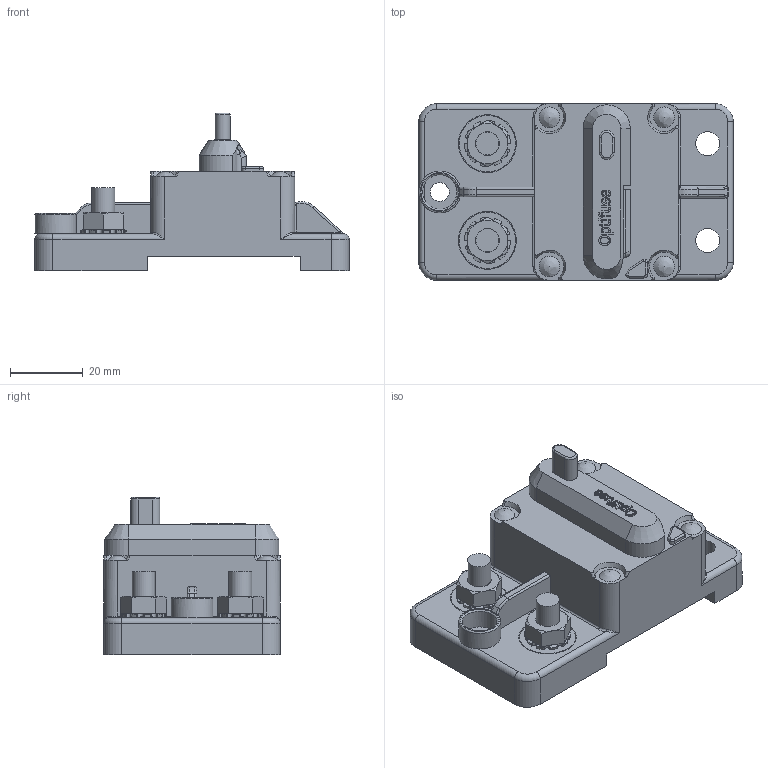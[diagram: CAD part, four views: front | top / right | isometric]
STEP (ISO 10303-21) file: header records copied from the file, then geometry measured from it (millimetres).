
FILE_DESCRIPTION(/* description */ (''),/* implementation_level */ '2;1');
FILE_NAME(/* name */ 'C:\Users\Hani\Desktop\work\453\453 Circuit Breaker.stp',/* time_stamp */ '2022-02-06T12:22:51-08:00',/* author */ ('Hani'),/* organization */ (''),/* preprocessor_version */ 'ST-DEVELOPER v17',/* originating_system */ 'Autodesk Inventor 2019',/* authorisation */ '');
FILE_SCHEMA (('AUTOMOTIVE_DESIGN { 1 0 10303 214 3 1 1 }'));
Products named in the file (7): 253 Circuit Breaker; Circuit_Breaker series 153; washer; bolt; .250-28 HEX NUT WITH TOOTH WASHER; washer_MIR; .250-28 HEX NUT WITH TOOTH WASHER_MIR
Assembly tree (9 placements, depth 2):
  253 Circuit Breaker
    Circuit_Breaker series 153
    washer
    bolt  x4
    .250-28 HEX NUT WITH TOOTH WASHER
    washer_MIR
    .250-28 HEX NUT WITH TOOTH WASHER_MIR
Bounding box: 86.35 x 48.5 x 43.3 mm (x, y, z)
Volume: 71228.2 mm3; surface area: 21002.1 mm2
Topology: 11 solids, 11 shells, 599 faces, 1567 edges, 1006 vertices
Faces by surface type: plane 203, cylinder 168, bspline 141, cone 62, torus 22, sphere 3
Full cylindrical faces by diameter (mm): 3.429 x4, 3.5 x4, 5.2 x1, 5.368 x8, 6.35 x18, 6.6 x2, 7 x2, 8.757 x2, 9.5 x1, 15.494 x2, 15.875 x2
Entity records: 24363 total; most frequent: CARTESIAN_POINT 10651, ORIENTED_EDGE 3078, DIRECTION 2390, EDGE_CURVE 1539, VERTEX_POINT 991, AXIS2_PLACEMENT_3D 867, LINE 656, VECTOR 656
